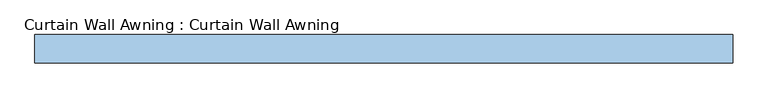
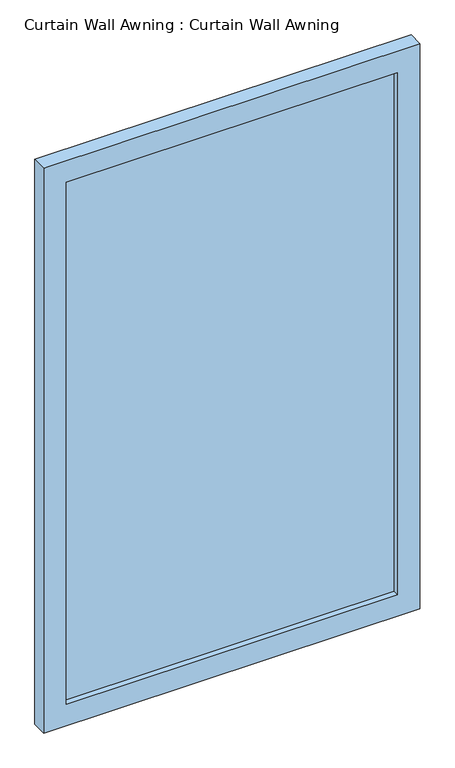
"""IFC4 building model written with IfcOpenShell, lengths in millimetres: window geometry, Curtain Wall Awning : Curtain Wall Awning."""

from ifc_helpers import new_model, si_unit, frame, origin, place, context, project, spatial, polyline, outline, extrude, source, transform, mapped, element, save


def curtain_wall_awning_curtain_wall_awning_ab27b4c8(model_context):
    return source(origin(), model_context, "Body", "SweptSolid", [
        extrude(outline(polyline([(553.7306556, -44.45), (553.7306556, -57.15), (-553.7306556, -57.15), (-553.7306556, -44.45), (553.7306556, -44.45)])), frame((0.0, 0.0, 76.2), z_axis=(0.0, 0.0, 1.0), x_axis=(1.0, 0.0, 0.0)), (0.0, 0.0, 1.0), 1847.6),
        extrude(outline(polyline([(2000.0, -629.9306556), (0.0, -629.9306556), (0.0, 629.9306556), (2000.0, 629.9306556), (2000.0, -629.9306556)]), holes=[polyline([(1923.8, -553.7306556), (1923.8, 553.7306556), (76.2, 553.7306556), (76.2, -553.7306556), (1923.8, -553.7306556)])]), frame((0.0, -76.2, 0.0), z_axis=(0.0, 1.0, 0.0), x_axis=(0.0, 0.0, 1.0)), (0.0, 0.0, 1.0), 50.8),
    ])


if __name__ == "__main__":
    model = new_model("IFC4")
    model_context = context("Model", 3, world=origin())
    ifc_project = project(units=[si_unit("LENGTHUNIT", "METRE", prefix="MILLI")], contexts=[model_context])
    site = spatial("IfcSite", under=ifc_project)
    building = spatial("IfcBuilding", under=site)
    placement = place(None, origin())
    curtain_wall_awning_curtain_wall_awning_shape = curtain_wall_awning_curtain_wall_awning_ab27b4c8(model_context)
    element("IfcWindow", 1, ObjectType="Curtain Wall Awning : Curtain Wall Awning", at=placement, inside=building, context=model_context, shape_type="MappedRepresentation", body=[
        mapped(curtain_wall_awning_curtain_wall_awning_shape, transform((0.0, 0.0, 0.0), x_axis=(1.0, 0.0, 0.0), y_axis=(0.0, 1.0, 0.0), z_axis=(0.0, 0.0, 1.0))),
    ])
    save(model, "model.ifc")
